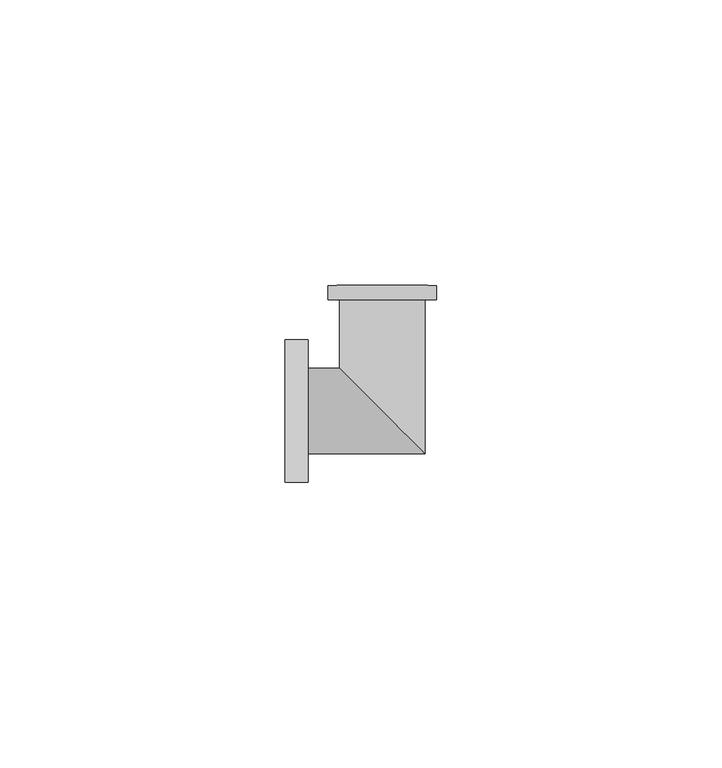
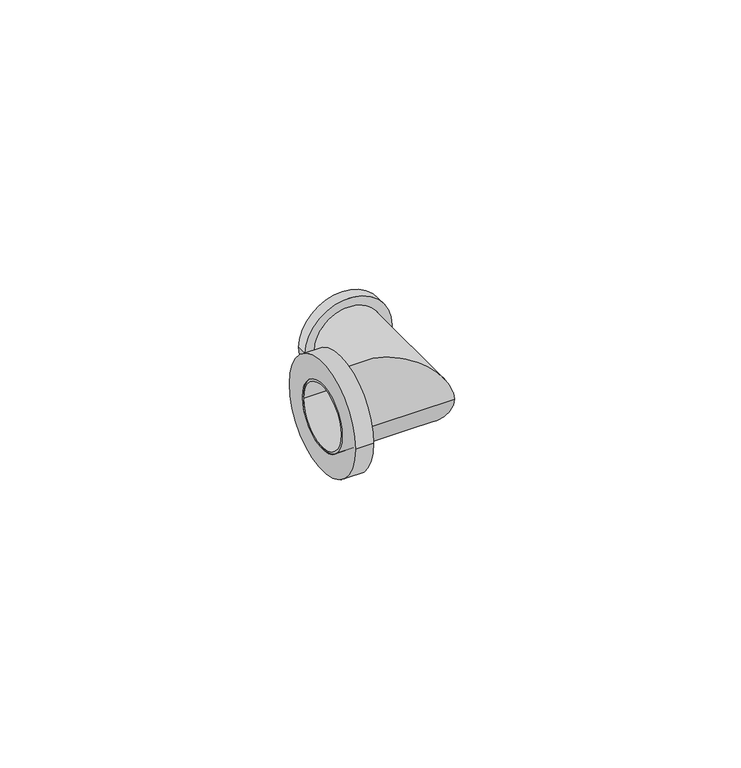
"""IFC4 building model written with IfcOpenShell, lengths in millimetres: pipe fitting geometry, БИР ПЕКС_НПР_Угольник_Резьба_Внутренняя : Угольник с внутренней резьбой."""

from ifc_helpers import new_model, si_unit, point, frame, origin, origin_2d, place, context, project, spatial, polyline, circle_curve, ellipse_curve, trimmed, segment, composite_curve, outline, extrude, source, transform, mapped, element, save
from ifc_brep_helpers import plane_surface, cylinder_surface, revolved_surface, advanced_brep


def pipe_fitting_751a9fbf(model_context):
    return source(origin(), model_context, "Body", "SolidModel", [
        extrude(outline(composite_curve([segment(trimmed(circle_curve(origin_2d(), 12.5), [point((-12.5, 0.0))], [point((12.5, 0.0))], False, "CARTESIAN"), True, "CONTINUOUS"), segment(trimmed(circle_curve(origin_2d(), 12.5), [point((12.5, 0.0))], [point((-12.5, 0.0))], False, "CARTESIAN"), True, "CONTINUOUS")], self_intersect=False), holes=[composite_curve([segment(trimmed(circle_curve(origin_2d(), 7.5), [point((-7.5, 0.0))], [point((7.5, 0.0))], True, "CARTESIAN"), True, "CONTINUOUS"), segment(trimmed(circle_curve(origin_2d(), 7.5), [point((7.5, 0.0))], [point((-7.5, 0.0))], True, "CARTESIAN"), True, "CONTINUOUS")], self_intersect=False)]), frame((-17.0, 0.0, 0.0), z_axis=(1.0, 0.0, 0.0), x_axis=(0.0, 1.0, 0.0)), (0.0, 0.0, 1.0), 4.0),
        advanced_brep(
        [(-17.0, -7.5, 0.0), (-17.0, 7.5, 0.0), (-17.0, -7.0, 0.0), (-17.0, 7.0, 0.0), (7.5, -7.5, 0.0), (-7.5, 7.5, 0.0), (-9.5, 22.0, 0.0), (9.5, 22.0, 0.0), (7.0, 22.0, 0.0), (-7.0, 22.0, 0.0), (7.5, 19.5, 0.0), (-7.5, 19.5, 0.0), (-9.5, 19.5, 0.0), (9.5, 19.5, 0.0), (7.0, -7.0, 0.0), (-7.0, 7.0, 0.0)],
        [
            (0, 1, circle_curve(frame((-17.0, 0.0, 0.0), z_axis=(-1.0, 0.0, 0.0), x_axis=(0.0, 1.0, 0.0)), 7.5)),
            (1, 0, circle_curve(frame((-17.0, 0.0, 0.0), z_axis=(-1.0, 0.0, 0.0), x_axis=(0.0, 1.0, 0.0)), 7.5)),
            (2, 3, circle_curve(frame((-17.0, 0.0, 0.0), z_axis=(1.0, 0.0, 0.0), x_axis=(0.0, 1.0, 0.0)), 7.0)),
            (3, 2, circle_curve(frame((-17.0, 0.0, 0.0), z_axis=(1.0, 0.0, 0.0), x_axis=(0.0, 1.0, 0.0)), 7.0)),
            (0, 4),
            (4, 5, ellipse_curve(frame((0.0, 0.0, 0.0), z_axis=(-0.7071067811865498, -0.7071067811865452, 0.0), x_axis=(-0.7071067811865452, 0.7071067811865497, 0.0)), 10.6066017, 7.5)),
            (5, 1),
            (5, 4, ellipse_curve(frame((0.0, 0.0, 0.0), z_axis=(-0.7071067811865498, -0.7071067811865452, 0.0), x_axis=(-0.7071067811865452, 0.7071067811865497, 0.0)), 10.6066017, 7.5)),
            (6, 7, circle_curve(frame((0.0, 22.0, 0.0), z_axis=(0.0, 1.0, 0.0), x_axis=(1.0, 0.0, 0.0)), 9.5)),
            (7, 6, circle_curve(frame((0.0, 22.0, 0.0), z_axis=(0.0, 1.0, 0.0), x_axis=(1.0, 0.0, 0.0)), 9.5)),
            (8, 9, circle_curve(frame((0.0, 22.0, 0.0), z_axis=(0.0, -1.0, 0.0), x_axis=(-1.0, 0.0, 0.0)), 7.0)),
            (9, 8, circle_curve(frame((0.0, 22.0, 0.0), z_axis=(0.0, -1.0, 0.0), x_axis=(-1.0, 0.0, 0.0)), 7.0)),
            (4, 10),
            (10, 11, circle_curve(frame((0.0, 19.5, 0.0), z_axis=(0.0, -1.0, 0.0), x_axis=(-1.0, 0.0, 0.0)), 7.5)),
            (11, 5),
            (11, 10, circle_curve(frame((0.0, 19.5, 0.0), z_axis=(0.0, -1.0, 0.0), x_axis=(-1.0, 0.0, 0.0)), 7.5)),
            (12, 13, circle_curve(frame((0.0, 19.5, 0.0), z_axis=(0.0, -1.0, 0.0), x_axis=(1.0, 0.0, 0.0)), 9.5)),
            (13, 12, circle_curve(frame((0.0, 19.5, 0.0), z_axis=(0.0, -1.0, 0.0), x_axis=(1.0, 0.0, 0.0)), 9.5)),
            (12, 6),
            (7, 13),
            (2, 14),
            (14, 15, ellipse_curve(frame((0.0, 0.0, 0.0), z_axis=(0.7071067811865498, 0.7071067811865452, 0.0), x_axis=(0.7071067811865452, -0.7071067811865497, 0.0)), 9.8994949, 7.0)),
            (15, 3),
            (15, 14, ellipse_curve(frame((0.0, 0.0, 0.0), z_axis=(0.7071067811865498, 0.7071067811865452, 0.0), x_axis=(0.7071067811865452, -0.7071067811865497, 0.0)), 9.8994949, 7.0)),
            (9, 15),
            (14, 8),
        ],
        [
            plane_surface(frame((-17.0, 0.0, 0.0), z_axis=(-1.0, 0.0, 0.0), x_axis=(0.0, 0.0, 1.0))),
            cylinder_surface(frame((-17.0, 0.0, 0.0), z_axis=(-1.0, 0.0, 0.0), x_axis=(0.0, 1.0, 0.0)), 7.5),
            plane_surface(frame((0.0, 22.0, 0.0), z_axis=(0.0, 1.0, 0.0), x_axis=(0.0, 0.0, 1.0))),
            cylinder_surface(frame((0.0, 0.0, 0.0), z_axis=(0.0, -1.0, 0.0), x_axis=(-1.0, 0.0, 0.0)), 7.5),
            plane_surface(frame((9.5, 19.5, 0.0), z_axis=(0.0, -1.0, 0.0), x_axis=(0.0, 0.0, 1.0))),
            cylinder_surface(frame((0.0, 22.0, 0.0), z_axis=(0.0, -1.0, 0.0), x_axis=(1.0, 0.0, 0.0)), 9.5),
            revolved_surface(polyline([(7.0, 7.0, 0.0), (-17.0, 7.0, 0.0)]), (-17.0, 0.0, 0.0), (1.0, 0.0, 0.0)),
            revolved_surface(polyline([(-7.0, 22.0, 0.0), (-7.0, -7.0, 0.0)]), (0.0, 0.0, 0.0), (0.0, 1.0, 0.0)),
        ],
        [
            (0, [[1, 2], [3, 4]]),
            (1, [[-1, 5, 6, 7]]),
            (1, [[-2, -7, 8, -5]]),
            (2, [[9, 10], [11, 12]]),
            (3, [[-6, 13, 14, 15]]),
            (3, [[-8, -15, 16, -13]]),
            (4, [[17, 18], [-14, -16]]),
            (5, [[-17, 19, -10, 20]]),
            (5, [[-18, -20, -9, -19]]),
            (6, [[-3, 21, 22, 23]]),
            (6, [[-4, -23, 24, -21]]),
            (7, [[-12, 25, -22, 26]]),
            (7, [[-11, -26, -24, -25]]),
        ],
    ),
    ])


if __name__ == "__main__":
    model = new_model("IFC4")
    model_context = context("Model", 3, world=origin())
    ifc_project = project(units=[si_unit("LENGTHUNIT", "METRE", prefix="MILLI")], contexts=[model_context])
    site = spatial("IfcSite", under=ifc_project)
    building = spatial("IfcBuilding", under=site)
    placement = place(None, origin())
    pipe_fitting_shape = pipe_fitting_751a9fbf(model_context)
    element("IfcPipeFitting", 1, ObjectType="БИР ПЕКС_НПР_Угольник_Резьба_Внутренняя : Угольник с внутренней резьбой", at=placement, inside=building, context=model_context, shape_type="MappedRepresentation", body=[
        mapped(pipe_fitting_shape, transform((0.0, 0.0, 0.0), x_axis=(1.0, 0.0, 0.0), y_axis=(0.0, 1.0, 0.0), z_axis=(0.0, 0.0, 1.0))),
    ])
    save(model, "model.ifc")
